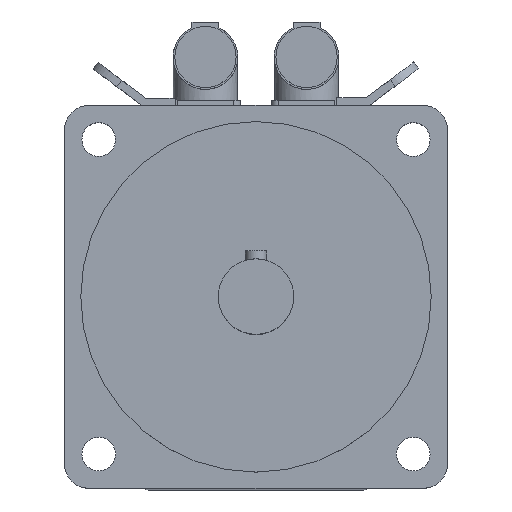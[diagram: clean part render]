
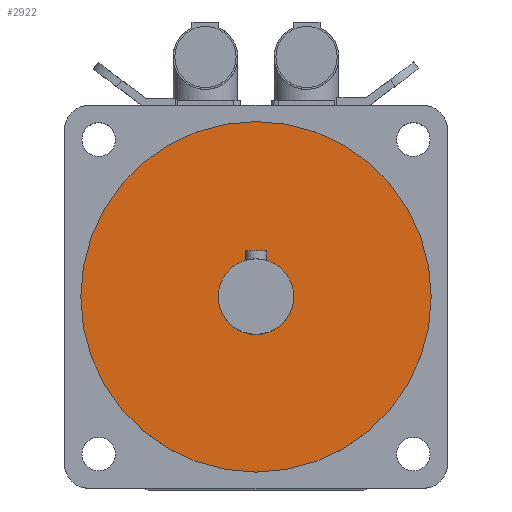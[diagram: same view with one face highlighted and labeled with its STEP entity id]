
A CAD part, top view. The second image highlights one B-rep face of the part: STEP entity #2922.
In plain terms, the highlighted planar face has unit normal (0, 0, 1).
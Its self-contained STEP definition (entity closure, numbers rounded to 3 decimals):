
#614=PLANE('',#3118);
#692=FACE_BOUND('',#926,.T.);
#742=FACE_OUTER_BOUND('',#925,.T.);
#925=EDGE_LOOP('',(#2098));
#926=EDGE_LOOP('',(#2099));
#1112=CIRCLE('',#3113,14.);
#1113=CIRCLE('',#3116,65.);
#1298=VERTEX_POINT('',#4521);
#1299=VERTEX_POINT('',#4525);
#1604=EDGE_CURVE('',#1298,#1298,#1112,.T.);
#1605=EDGE_CURVE('',#1299,#1299,#1113,.T.);
#2098=ORIENTED_EDGE('',*,*,#1605,.T.);
#2099=ORIENTED_EDGE('',*,*,#1604,.T.);
#2922=ADVANCED_FACE('',(#742,#692),#614,.T.);
#3113=AXIS2_PLACEMENT_3D('',#4522,#3545,#3546);
#3116=AXIS2_PLACEMENT_3D('',#4526,#3551,#3552);
#3118=AXIS2_PLACEMENT_3D('',#4529,#3555,#3556);
#3545=DIRECTION('center_axis',(0.,0.,-1.));
#3546=DIRECTION('ref_axis',(-1.,0.,0.));
#3551=DIRECTION('center_axis',(0.,0.,1.));
#3552=DIRECTION('ref_axis',(-1.,0.,0.));
#3555=DIRECTION('center_axis',(0.,0.,1.));
#3556=DIRECTION('ref_axis',(1.,0.,0.));
#4521=CARTESIAN_POINT('',(14.,0.,343.));
#4522=CARTESIAN_POINT('Origin',(0.,0.,343.));
#4525=CARTESIAN_POINT('',(65.,0.,343.));
#4526=CARTESIAN_POINT('Origin',(0.,0.,343.));
#4529=CARTESIAN_POINT('Origin',(0.,0.,343.));
